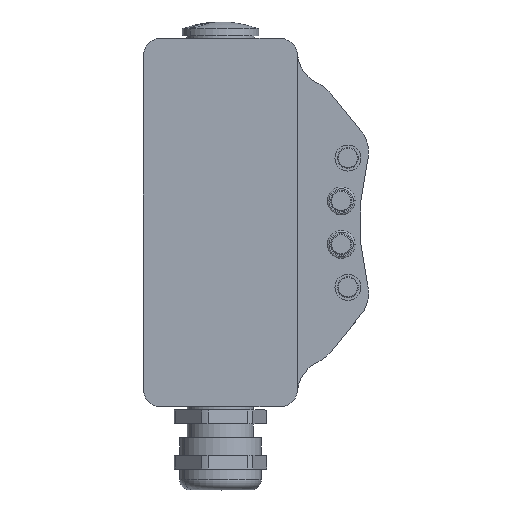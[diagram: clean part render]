
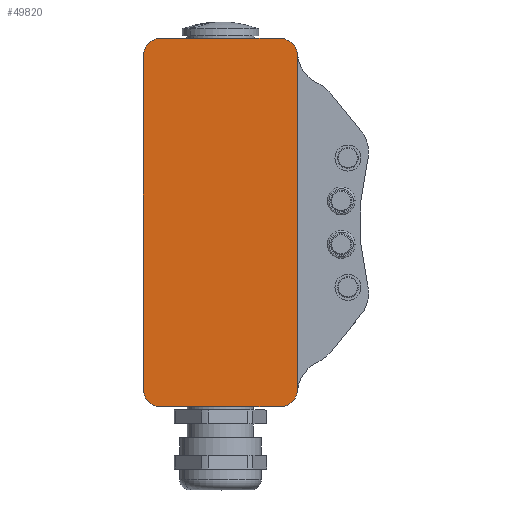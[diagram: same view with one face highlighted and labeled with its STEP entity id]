
A CAD part, top view. The second image highlights one B-rep face of the part: STEP entity #49820.
In plain terms, the highlighted planar face has unit normal (0, 0, 1).
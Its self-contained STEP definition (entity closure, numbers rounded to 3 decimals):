
#257 = CARTESIAN_POINT ( 'NONE',  ( -41.192, -43.067, 106.192 ) ) ;
#432 = EDGE_CURVE ( 'NONE', #19489, #12292, #11907, .T. ) ;
#449 = CARTESIAN_POINT ( 'NONE',  ( -36.192, 57.933, 106.192 ) ) ;
#1829 = EDGE_CURVE ( 'NONE', #26457, #8873, #62914, .T. ) ;
#2271 = AXIS2_PLACEMENT_3D ( 'NONE', #6187, #33328, #60409 ) ;
#2670 = DIRECTION ( 'NONE',  ( 1., 0., 0. ) ) ;
#6187 = CARTESIAN_POINT ( 'NONE',  ( -1.892, 57.933, 106.192 ) ) ;
#7476 = ORIENTED_EDGE ( 'NONE', *, *, #15654, .T. ) ;
#7582 = AXIS2_PLACEMENT_3D ( 'NONE', #449, #34256, #49772 ) ;
#8027 = CIRCLE ( 'NONE', #83226, 5. ) ;
#8371 = CARTESIAN_POINT ( 'NONE',  ( -1.892, -38.067, 106.192 ) ) ;
#8803 = ORIENTED_EDGE ( 'NONE', *, *, #432, .T. ) ;
#8873 = VERTEX_POINT ( 'NONE', #61080 ) ;
#10288 = CARTESIAN_POINT ( 'NONE',  ( -36.192, -38.067, 106.192 ) ) ;
#11907 = CIRCLE ( 'NONE', #23290, 5. ) ;
#12292 = VERTEX_POINT ( 'NONE', #34129 ) ;
#12724 = VERTEX_POINT ( 'NONE', #46003 ) ;
#13760 = EDGE_LOOP ( 'NONE', ( #79520, #74527, #28757, #8803, #56900, #7476, #23031, #47354 ) ) ;
#15169 = AXIS2_PLACEMENT_3D ( 'NONE', #58646, #31595, #45752 ) ;
#15654 = EDGE_CURVE ( 'NONE', #35695, #12724, #8027, .T. ) ;
#17346 = FACE_OUTER_BOUND ( 'NONE', #13760, .T. ) ;
#19277 = EDGE_CURVE ( 'NONE', #35695, #12292, #42439, .T. ) ;
#19489 = VERTEX_POINT ( 'NONE', #67140 ) ;
#21166 = VECTOR ( 'NONE', #54904, 1000. ) ;
#22152 = DIRECTION ( 'NONE',  ( 0., 0., 1. ) ) ;
#23022 = VECTOR ( 'NONE', #86384, 1000. ) ;
#23031 = ORIENTED_EDGE ( 'NONE', *, *, #59474, .F. ) ;
#23290 = AXIS2_PLACEMENT_3D ( 'NONE', #10288, #37409, #64493 ) ;
#25103 = DIRECTION ( 'NONE',  ( 0., -1., 0. ) ) ;
#25351 = PLANE ( 'NONE',  #15169 ) ;
#25931 = CARTESIAN_POINT ( 'NONE',  ( -41.192, -43.067, 106.192 ) ) ;
#26457 = VERTEX_POINT ( 'NONE', #29159 ) ;
#27539 = VECTOR ( 'NONE', #2670, 1000. ) ;
#28160 = CARTESIAN_POINT ( 'NONE',  ( -1.892, 62.933, 106.192 ) ) ;
#28757 = ORIENTED_EDGE ( 'NONE', *, *, #32373, .F. ) ;
#29159 = CARTESIAN_POINT ( 'NONE',  ( -36.192, 62.933, 106.192 ) ) ;
#31595 = DIRECTION ( 'NONE',  ( 0., 0., 1. ) ) ;
#32373 = EDGE_CURVE ( 'NONE', #19489, #8873, #59246, .T. ) ;
#33328 = DIRECTION ( 'NONE',  ( 0., 0., 1. ) ) ;
#34129 = CARTESIAN_POINT ( 'NONE',  ( -36.192, -43.067, 106.192 ) ) ;
#34256 = DIRECTION ( 'NONE',  ( 0., 0., 1. ) ) ;
#35695 = VERTEX_POINT ( 'NONE', #42479 ) ;
#37409 = DIRECTION ( 'NONE',  ( 0., 0., 1. ) ) ;
#42439 = LINE ( 'NONE', #257, #21166 ) ;
#42479 = CARTESIAN_POINT ( 'NONE',  ( -1.892, -43.067, 106.192 ) ) ;
#45752 = DIRECTION ( 'NONE',  ( 1., 0., 0. ) ) ;
#45949 = LINE ( 'NONE', #85133, #70079 ) ;
#46003 = CARTESIAN_POINT ( 'NONE',  ( 3.108, -38.067, 106.192 ) ) ;
#47354 = ORIENTED_EDGE ( 'NONE', *, *, #68487, .T. ) ;
#49772 = DIRECTION ( 'NONE',  ( 1., 0., 0. ) ) ;
#49820 = ADVANCED_FACE ( 'NONE', ( #17346 ), #25351, .T. ) ;
#54904 = DIRECTION ( 'NONE',  ( -1., 0., 0. ) ) ;
#56900 = ORIENTED_EDGE ( 'NONE', *, *, #19277, .F. ) ;
#57801 = EDGE_CURVE ( 'NONE', #26457, #81999, #76436, .T. ) ;
#58646 = CARTESIAN_POINT ( 'NONE',  ( -19.042, 9.933, 106.192 ) ) ;
#59246 = LINE ( 'NONE', #25931, #23022 ) ;
#59416 = CARTESIAN_POINT ( 'NONE',  ( 3.108, 57.933, 106.192 ) ) ;
#59474 = EDGE_CURVE ( 'NONE', #87071, #12724, #45949, .T. ) ;
#60409 = DIRECTION ( 'NONE',  ( 1., 0., 0. ) ) ;
#61080 = CARTESIAN_POINT ( 'NONE',  ( -41.192, 57.933, 106.192 ) ) ;
#62914 = CIRCLE ( 'NONE', #7582, 5. ) ;
#64493 = DIRECTION ( 'NONE',  ( 1., 0., 0. ) ) ;
#67140 = CARTESIAN_POINT ( 'NONE',  ( -41.192, -38.067, 106.192 ) ) ;
#68487 = EDGE_CURVE ( 'NONE', #87071, #81999, #77455, .T. ) ;
#69771 = CARTESIAN_POINT ( 'NONE',  ( -41.192, 62.933, 106.192 ) ) ;
#70079 = VECTOR ( 'NONE', #25103, 1000. ) ;
#74527 = ORIENTED_EDGE ( 'NONE', *, *, #1829, .T. ) ;
#76436 = LINE ( 'NONE', #69771, #27539 ) ;
#77455 = CIRCLE ( 'NONE', #2271, 5. ) ;
#79520 = ORIENTED_EDGE ( 'NONE', *, *, #57801, .F. ) ;
#81999 = VERTEX_POINT ( 'NONE', #28160 ) ;
#83226 = AXIS2_PLACEMENT_3D ( 'NONE', #8371, #22152, #84360 ) ;
#84360 = DIRECTION ( 'NONE',  ( 1., 0., 0. ) ) ;
#85133 = CARTESIAN_POINT ( 'NONE',  ( 3.108, -43.067, 106.192 ) ) ;
#86384 = DIRECTION ( 'NONE',  ( 0., 1., 0. ) ) ;
#87071 = VERTEX_POINT ( 'NONE', #59416 ) ;
